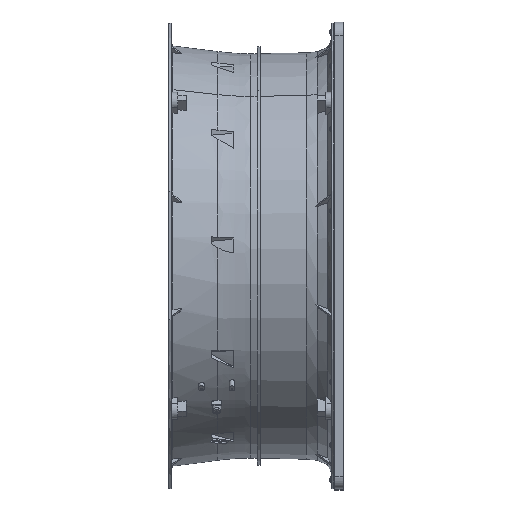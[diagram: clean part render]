
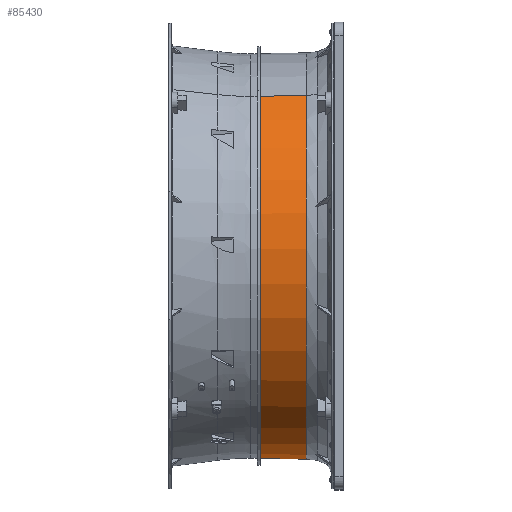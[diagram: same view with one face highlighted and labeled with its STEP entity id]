
A CAD part, top view. The second image highlights one B-rep face of the part: STEP entity #85430.
In plain terms, the highlighted conical face has half-angle 0.869 degrees and reference radius 464.699 mm.
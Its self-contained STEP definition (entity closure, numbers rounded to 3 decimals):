
#2877=CARTESIAN_POINT('',(237.756,0.,0.));
#2878=DIRECTION('',(1.,0.,0.));
#2879=DIRECTION('',(0.,0.788,0.616));
#2880=AXIS2_PLACEMENT_3D('',#2877,#2878,#2879);
#5970=CARTESIAN_POINT('',(132.207,0.,0.));
#5971=DIRECTION('',(-1.,0.,0.));
#5972=DIRECTION('',(0.,-0.788,-0.616));
#5973=AXIS2_PLACEMENT_3D('',#5970,#5971,#5972);
#5975=DIRECTION('',(1.,0.012,0.009));
#5976=VECTOR('',#5975,105.561);
#5977=CARTESIAN_POINT('',(132.207,365.557,285.605));
#5978=LINE('',#5977,#5976);
#5979=DIRECTION('',(1.,-0.012,-0.009));
#5980=VECTOR('',#5979,105.561);
#5981=CARTESIAN_POINT('',(132.207,-365.557,
-285.605));
#5982=LINE('',#5981,#5980);
#72740=CARTESIAN_POINT('',(132.207,365.557,285.605));
#72741=VERTEX_POINT('',#72740);
#72742=CARTESIAN_POINT('',(132.207,-365.557,
-285.605));
#72743=VERTEX_POINT('',#72742);
#74211=CARTESIAN_POINT('',(237.756,366.818,286.59));
#74212=VERTEX_POINT('',#74211);
#74213=CARTESIAN_POINT('',(237.756,-366.818,
-286.59));
#74214=VERTEX_POINT('',#74213);
#85419=CARTESIAN_POINT('',(184.982,0.,0.));
#85420=DIRECTION('',(1.,0.,0.));
#85421=DIRECTION('',(0.,0.788,0.616));
#85422=AXIS2_PLACEMENT_3D('',#85419,#85420,#85421);
#85423=CONICAL_SURFACE('',#85422,464.699,0.869);
#85424=ORIENTED_EDGE('',*,*,#85411,.T.);
#85425=ORIENTED_EDGE('',*,*,#85385,.T.);
#85426=ORIENTED_EDGE('',*,*,#84545,.T.);
#85427=ORIENTED_EDGE('',*,*,#85382,.F.);
#85428=EDGE_LOOP('',(#85424,#85425,#85426,#85427));
#85429=FACE_OUTER_BOUND('',#85428,.F.);
#2881=CIRCLE('',#2880,465.499);
#5974=CIRCLE('',#5973,463.899);
#84545=EDGE_CURVE('',#74212,#74214,#2881,.T.);
#85382=EDGE_CURVE('',#72743,#74214,#5982,.T.);
#85385=EDGE_CURVE('',#72741,#74212,#5978,.T.);
#85411=EDGE_CURVE('',#72743,#72741,#5974,.T.);
#85430=ADVANCED_FACE('',(#85429),#85423,.T.);
